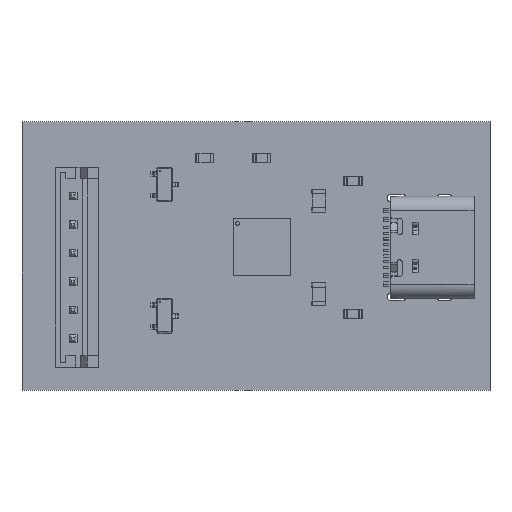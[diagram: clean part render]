
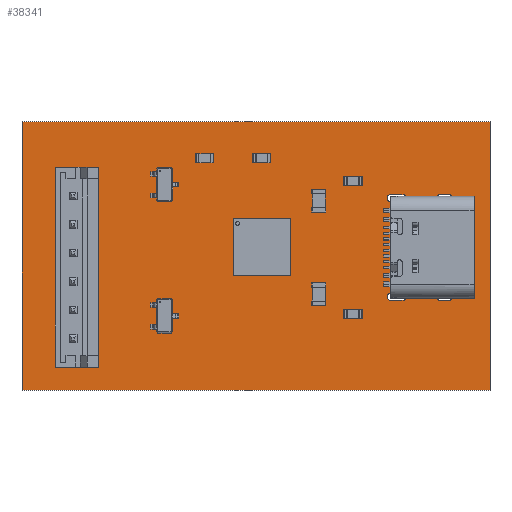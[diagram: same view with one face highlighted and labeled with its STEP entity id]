
A CAD part, top view. The second image highlights one B-rep face of the part: STEP entity #38341.
In plain terms, the highlighted planar face has unit normal (0, 0, 1).
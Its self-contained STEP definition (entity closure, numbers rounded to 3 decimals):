
#37997 = VERTEX_POINT('',#37998);
#37998 = CARTESIAN_POINT('',(189.,-103.5,1.51));
#38004 = EDGE_CURVE('',#37997,#38005,#38007,.T.);
#38005 = VERTEX_POINT('',#38006);
#38006 = CARTESIAN_POINT('',(148.,-103.5,1.51));
#38007 = LINE('',#38008,#38009);
#38008 = CARTESIAN_POINT('',(189.,-103.5,1.51));
#38009 = VECTOR('',#38010,1.);
#38010 = DIRECTION('',(-1.,0.,0.));
#38037 = VERTEX_POINT('',#38038);
#38038 = CARTESIAN_POINT('',(189.,-80.,1.51));
#38044 = EDGE_CURVE('',#38037,#37997,#38045,.T.);
#38045 = LINE('',#38046,#38047);
#38046 = CARTESIAN_POINT('',(189.,-80.,1.51));
#38047 = VECTOR('',#38048,1.);
#38048 = DIRECTION('',(0.,-1.,0.));
#38066 = EDGE_CURVE('',#38005,#38067,#38069,.T.);
#38067 = VERTEX_POINT('',#38068);
#38068 = CARTESIAN_POINT('',(148.,-80.,1.51));
#38069 = LINE('',#38070,#38071);
#38070 = CARTESIAN_POINT('',(148.,-103.5,1.51));
#38071 = VECTOR('',#38072,1.);
#38072 = DIRECTION('',(0.,1.,0.));
#38341 = ADVANCED_FACE('',(#38342,#38353,#38364,#38375,#38386,#38422,
    #38458,#38469,#38480,#38491,#38502,#38513,#38549),#38585,.T.);
#38342 = FACE_BOUND('',#38343,.T.);
#38343 = EDGE_LOOP('',(#38344,#38345,#38346,#38352));
#38344 = ORIENTED_EDGE('',*,*,#38004,.F.);
#38345 = ORIENTED_EDGE('',*,*,#38044,.F.);
#38346 = ORIENTED_EDGE('',*,*,#38347,.F.);
#38347 = EDGE_CURVE('',#38067,#38037,#38348,.T.);
#38348 = LINE('',#38349,#38350);
#38349 = CARTESIAN_POINT('',(148.,-80.,1.51));
#38350 = VECTOR('',#38351,1.);
#38351 = DIRECTION('',(1.,0.,0.));
#38352 = ORIENTED_EDGE('',*,*,#38066,.F.);
#38353 = FACE_BOUND('',#38354,.T.);
#38354 = EDGE_LOOP('',(#38355));
#38355 = ORIENTED_EDGE('',*,*,#38356,.T.);
#38356 = EDGE_CURVE('',#38357,#38357,#38359,.T.);
#38357 = VERTEX_POINT('',#38358);
#38358 = CARTESIAN_POINT('',(152.5,-99.475,1.51));
#38359 = CIRCLE('',#38360,0.475);
#38360 = AXIS2_PLACEMENT_3D('',#38361,#38362,#38363);
#38361 = CARTESIAN_POINT('',(152.5,-99.,1.51));
#38362 = DIRECTION('',(-0.,0.,-1.));
#38363 = DIRECTION('',(-0.,-1.,0.));
#38364 = FACE_BOUND('',#38365,.T.);
#38365 = EDGE_LOOP('',(#38366));
#38366 = ORIENTED_EDGE('',*,*,#38367,.T.);
#38367 = EDGE_CURVE('',#38368,#38368,#38370,.T.);
#38368 = VERTEX_POINT('',#38369);
#38369 = CARTESIAN_POINT('',(152.5,-96.975,1.51));
#38370 = CIRCLE('',#38371,0.475);
#38371 = AXIS2_PLACEMENT_3D('',#38372,#38373,#38374);
#38372 = CARTESIAN_POINT('',(152.5,-96.5,1.51));
#38373 = DIRECTION('',(-0.,0.,-1.));
#38374 = DIRECTION('',(-0.,-1.,0.));
#38375 = FACE_BOUND('',#38376,.T.);
#38376 = EDGE_LOOP('',(#38377));
#38377 = ORIENTED_EDGE('',*,*,#38378,.T.);
#38378 = EDGE_CURVE('',#38379,#38379,#38381,.T.);
#38379 = VERTEX_POINT('',#38380);
#38380 = CARTESIAN_POINT('',(152.5,-94.475,1.51));
#38381 = CIRCLE('',#38382,0.475);
#38382 = AXIS2_PLACEMENT_3D('',#38383,#38384,#38385);
#38383 = CARTESIAN_POINT('',(152.5,-94.,1.51));
#38384 = DIRECTION('',(-0.,0.,-1.));
#38385 = DIRECTION('',(-0.,-1.,0.));
#38386 = FACE_BOUND('',#38387,.T.);
#38387 = EDGE_LOOP('',(#38388,#38399,#38407,#38416));
#38388 = ORIENTED_EDGE('',*,*,#38389,.T.);
#38389 = EDGE_CURVE('',#38390,#38392,#38394,.T.);
#38390 = VERTEX_POINT('',#38391);
#38391 = CARTESIAN_POINT('',(181.38,-95.025,1.51));
#38392 = VERTEX_POINT('',#38393);
#38393 = CARTESIAN_POINT('',(181.38,-95.625,1.51));
#38394 = CIRCLE('',#38395,0.3);
#38395 = AXIS2_PLACEMENT_3D('',#38396,#38397,#38398);
#38396 = CARTESIAN_POINT('',(181.38,-95.325,1.51));
#38397 = DIRECTION('',(-0.,0.,-1.));
#38398 = DIRECTION('',(0.,-1.,0.));
#38399 = ORIENTED_EDGE('',*,*,#38400,.T.);
#38400 = EDGE_CURVE('',#38392,#38401,#38403,.T.);
#38401 = VERTEX_POINT('',#38402);
#38402 = CARTESIAN_POINT('',(180.28,-95.625,1.51));
#38403 = LINE('',#38404,#38405);
#38404 = CARTESIAN_POINT('',(90.14,-95.625,1.51));
#38405 = VECTOR('',#38406,1.);
#38406 = DIRECTION('',(-1.,0.,0.));
#38407 = ORIENTED_EDGE('',*,*,#38408,.T.);
#38408 = EDGE_CURVE('',#38401,#38409,#38411,.T.);
#38409 = VERTEX_POINT('',#38410);
#38410 = CARTESIAN_POINT('',(180.28,-95.025,1.51));
#38411 = CIRCLE('',#38412,0.3);
#38412 = AXIS2_PLACEMENT_3D('',#38413,#38414,#38415);
#38413 = CARTESIAN_POINT('',(180.28,-95.325,1.51));
#38414 = DIRECTION('',(0.,-0.,-1.));
#38415 = DIRECTION('',(0.,1.,-0.));
#38416 = ORIENTED_EDGE('',*,*,#38417,.T.);
#38417 = EDGE_CURVE('',#38409,#38390,#38418,.T.);
#38418 = LINE('',#38419,#38420);
#38419 = CARTESIAN_POINT('',(90.69,-95.025,1.51));
#38420 = VECTOR('',#38421,1.);
#38421 = DIRECTION('',(1.,0.,-0.));
#38422 = FACE_BOUND('',#38423,.T.);
#38423 = EDGE_LOOP('',(#38424,#38435,#38443,#38452));
#38424 = ORIENTED_EDGE('',*,*,#38425,.T.);
#38425 = EDGE_CURVE('',#38426,#38428,#38430,.T.);
#38426 = VERTEX_POINT('',#38427);
#38427 = CARTESIAN_POINT('',(185.4,-95.025,1.51));
#38428 = VERTEX_POINT('',#38429);
#38429 = CARTESIAN_POINT('',(185.4,-95.625,1.51));
#38430 = CIRCLE('',#38431,0.3);
#38431 = AXIS2_PLACEMENT_3D('',#38432,#38433,#38434);
#38432 = CARTESIAN_POINT('',(185.4,-95.325,1.51));
#38433 = DIRECTION('',(-0.,0.,-1.));
#38434 = DIRECTION('',(-0.,-1.,0.));
#38435 = ORIENTED_EDGE('',*,*,#38436,.T.);
#38436 = EDGE_CURVE('',#38428,#38437,#38439,.T.);
#38437 = VERTEX_POINT('',#38438);
#38438 = CARTESIAN_POINT('',(184.6,-95.625,1.51));
#38439 = LINE('',#38440,#38441);
#38440 = CARTESIAN_POINT('',(92.3,-95.625,1.51));
#38441 = VECTOR('',#38442,1.);
#38442 = DIRECTION('',(-1.,0.,0.));
#38443 = ORIENTED_EDGE('',*,*,#38444,.T.);
#38444 = EDGE_CURVE('',#38437,#38445,#38447,.T.);
#38445 = VERTEX_POINT('',#38446);
#38446 = CARTESIAN_POINT('',(184.6,-95.025,1.51));
#38447 = CIRCLE('',#38448,0.3);
#38448 = AXIS2_PLACEMENT_3D('',#38449,#38450,#38451);
#38449 = CARTESIAN_POINT('',(184.6,-95.325,1.51));
#38450 = DIRECTION('',(-0.,0.,-1.));
#38451 = DIRECTION('',(0.,1.,0.));
#38452 = ORIENTED_EDGE('',*,*,#38453,.T.);
#38453 = EDGE_CURVE('',#38445,#38426,#38454,.T.);
#38454 = LINE('',#38455,#38456);
#38455 = CARTESIAN_POINT('',(92.7,-95.025,1.51));
#38456 = VECTOR('',#38457,1.);
#38457 = DIRECTION('',(1.,0.,-0.));
#38458 = FACE_BOUND('',#38459,.T.);
#38459 = EDGE_LOOP('',(#38460));
#38460 = ORIENTED_EDGE('',*,*,#38461,.T.);
#38461 = EDGE_CURVE('',#38462,#38462,#38464,.T.);
#38462 = VERTEX_POINT('',#38463);
#38463 = CARTESIAN_POINT('',(181.32,-94.19,1.51));
#38464 = CIRCLE('',#38465,0.3);
#38465 = AXIS2_PLACEMENT_3D('',#38466,#38467,#38468);
#38466 = CARTESIAN_POINT('',(181.32,-93.89,1.51));
#38467 = DIRECTION('',(-0.,0.,-1.));
#38468 = DIRECTION('',(-0.,-1.,0.));
#38469 = FACE_BOUND('',#38470,.T.);
#38470 = EDGE_LOOP('',(#38471));
#38471 = ORIENTED_EDGE('',*,*,#38472,.T.);
#38472 = EDGE_CURVE('',#38473,#38473,#38475,.T.);
#38473 = VERTEX_POINT('',#38474);
#38474 = CARTESIAN_POINT('',(152.5,-91.975,1.51));
#38475 = CIRCLE('',#38476,0.475);
#38476 = AXIS2_PLACEMENT_3D('',#38477,#38478,#38479);
#38477 = CARTESIAN_POINT('',(152.5,-91.5,1.51));
#38478 = DIRECTION('',(-0.,0.,-1.));
#38479 = DIRECTION('',(-0.,-1.,0.));
#38480 = FACE_BOUND('',#38481,.T.);
#38481 = EDGE_LOOP('',(#38482));
#38482 = ORIENTED_EDGE('',*,*,#38483,.T.);
#38483 = EDGE_CURVE('',#38484,#38484,#38486,.T.);
#38484 = VERTEX_POINT('',#38485);
#38485 = CARTESIAN_POINT('',(152.5,-89.475,1.51));
#38486 = CIRCLE('',#38487,0.475);
#38487 = AXIS2_PLACEMENT_3D('',#38488,#38489,#38490);
#38488 = CARTESIAN_POINT('',(152.5,-89.,1.51));
#38489 = DIRECTION('',(-0.,0.,-1.));
#38490 = DIRECTION('',(-0.,-1.,0.));
#38491 = FACE_BOUND('',#38492,.T.);
#38492 = EDGE_LOOP('',(#38493));
#38493 = ORIENTED_EDGE('',*,*,#38494,.T.);
#38494 = EDGE_CURVE('',#38495,#38495,#38497,.T.);
#38495 = VERTEX_POINT('',#38496);
#38496 = CARTESIAN_POINT('',(152.5,-86.975,1.51));
#38497 = CIRCLE('',#38498,0.475);
#38498 = AXIS2_PLACEMENT_3D('',#38499,#38500,#38501);
#38499 = CARTESIAN_POINT('',(152.5,-86.5,1.51));
#38500 = DIRECTION('',(-0.,0.,-1.));
#38501 = DIRECTION('',(-0.,-1.,0.));
#38502 = FACE_BOUND('',#38503,.T.);
#38503 = EDGE_LOOP('',(#38504));
#38504 = ORIENTED_EDGE('',*,*,#38505,.T.);
#38505 = EDGE_CURVE('',#38506,#38506,#38508,.T.);
#38506 = VERTEX_POINT('',#38507);
#38507 = CARTESIAN_POINT('',(181.32,-88.41,1.51));
#38508 = CIRCLE('',#38509,0.3);
#38509 = AXIS2_PLACEMENT_3D('',#38510,#38511,#38512);
#38510 = CARTESIAN_POINT('',(181.32,-88.11,1.51));
#38511 = DIRECTION('',(-0.,0.,-1.));
#38512 = DIRECTION('',(-0.,-1.,0.));
#38513 = FACE_BOUND('',#38514,.T.);
#38514 = EDGE_LOOP('',(#38515,#38526,#38534,#38543));
#38515 = ORIENTED_EDGE('',*,*,#38516,.T.);
#38516 = EDGE_CURVE('',#38517,#38519,#38521,.T.);
#38517 = VERTEX_POINT('',#38518);
#38518 = CARTESIAN_POINT('',(181.38,-86.375,1.51));
#38519 = VERTEX_POINT('',#38520);
#38520 = CARTESIAN_POINT('',(181.38,-86.975,1.51));
#38521 = CIRCLE('',#38522,0.3);
#38522 = AXIS2_PLACEMENT_3D('',#38523,#38524,#38525);
#38523 = CARTESIAN_POINT('',(181.38,-86.675,1.51));
#38524 = DIRECTION('',(-0.,0.,-1.));
#38525 = DIRECTION('',(0.,-1.,0.));
#38526 = ORIENTED_EDGE('',*,*,#38527,.T.);
#38527 = EDGE_CURVE('',#38519,#38528,#38530,.T.);
#38528 = VERTEX_POINT('',#38529);
#38529 = CARTESIAN_POINT('',(180.28,-86.975,1.51));
#38530 = LINE('',#38531,#38532);
#38531 = CARTESIAN_POINT('',(90.14,-86.975,1.51));
#38532 = VECTOR('',#38533,1.);
#38533 = DIRECTION('',(-1.,0.,0.));
#38534 = ORIENTED_EDGE('',*,*,#38535,.T.);
#38535 = EDGE_CURVE('',#38528,#38536,#38538,.T.);
#38536 = VERTEX_POINT('',#38537);
#38537 = CARTESIAN_POINT('',(180.28,-86.375,1.51));
#38538 = CIRCLE('',#38539,0.3);
#38539 = AXIS2_PLACEMENT_3D('',#38540,#38541,#38542);
#38540 = CARTESIAN_POINT('',(180.28,-86.675,1.51));
#38541 = DIRECTION('',(0.,-0.,-1.));
#38542 = DIRECTION('',(0.,1.,-0.));
#38543 = ORIENTED_EDGE('',*,*,#38544,.T.);
#38544 = EDGE_CURVE('',#38536,#38517,#38545,.T.);
#38545 = LINE('',#38546,#38547);
#38546 = CARTESIAN_POINT('',(90.69,-86.375,1.51));
#38547 = VECTOR('',#38548,1.);
#38548 = DIRECTION('',(1.,0.,-0.));
#38549 = FACE_BOUND('',#38550,.T.);
#38550 = EDGE_LOOP('',(#38551,#38562,#38570,#38579));
#38551 = ORIENTED_EDGE('',*,*,#38552,.T.);
#38552 = EDGE_CURVE('',#38553,#38555,#38557,.T.);
#38553 = VERTEX_POINT('',#38554);
#38554 = CARTESIAN_POINT('',(185.4,-86.375,1.51));
#38555 = VERTEX_POINT('',#38556);
#38556 = CARTESIAN_POINT('',(185.4,-86.975,1.51));
#38557 = CIRCLE('',#38558,0.3);
#38558 = AXIS2_PLACEMENT_3D('',#38559,#38560,#38561);
#38559 = CARTESIAN_POINT('',(185.4,-86.675,1.51));
#38560 = DIRECTION('',(-0.,0.,-1.));
#38561 = DIRECTION('',(-0.,-1.,0.));
#38562 = ORIENTED_EDGE('',*,*,#38563,.T.);
#38563 = EDGE_CURVE('',#38555,#38564,#38566,.T.);
#38564 = VERTEX_POINT('',#38565);
#38565 = CARTESIAN_POINT('',(184.6,-86.975,1.51));
#38566 = LINE('',#38567,#38568);
#38567 = CARTESIAN_POINT('',(92.3,-86.975,1.51));
#38568 = VECTOR('',#38569,1.);
#38569 = DIRECTION('',(-1.,0.,0.));
#38570 = ORIENTED_EDGE('',*,*,#38571,.T.);
#38571 = EDGE_CURVE('',#38564,#38572,#38574,.T.);
#38572 = VERTEX_POINT('',#38573);
#38573 = CARTESIAN_POINT('',(184.6,-86.375,1.51));
#38574 = CIRCLE('',#38575,0.3);
#38575 = AXIS2_PLACEMENT_3D('',#38576,#38577,#38578);
#38576 = CARTESIAN_POINT('',(184.6,-86.675,1.51));
#38577 = DIRECTION('',(-0.,0.,-1.));
#38578 = DIRECTION('',(0.,1.,0.));
#38579 = ORIENTED_EDGE('',*,*,#38580,.T.);
#38580 = EDGE_CURVE('',#38572,#38553,#38581,.T.);
#38581 = LINE('',#38582,#38583);
#38582 = CARTESIAN_POINT('',(92.7,-86.375,1.51));
#38583 = VECTOR('',#38584,1.);
#38584 = DIRECTION('',(1.,0.,-0.));
#38585 = PLANE('',#38586);
#38586 = AXIS2_PLACEMENT_3D('',#38587,#38588,#38589);
#38587 = CARTESIAN_POINT('',(0.,0.,1.51));
#38588 = DIRECTION('',(0.,0.,1.));
#38589 = DIRECTION('',(1.,0.,-0.));
